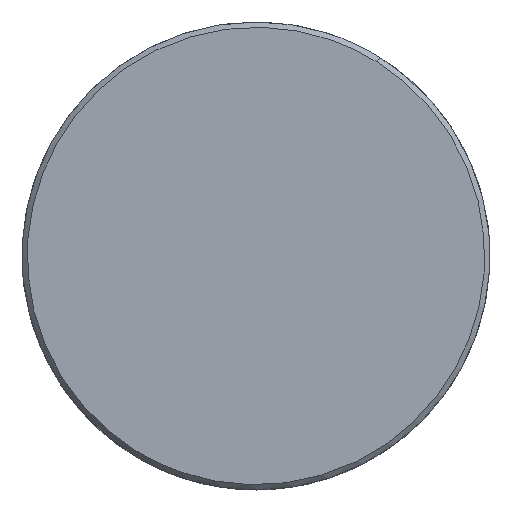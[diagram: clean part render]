
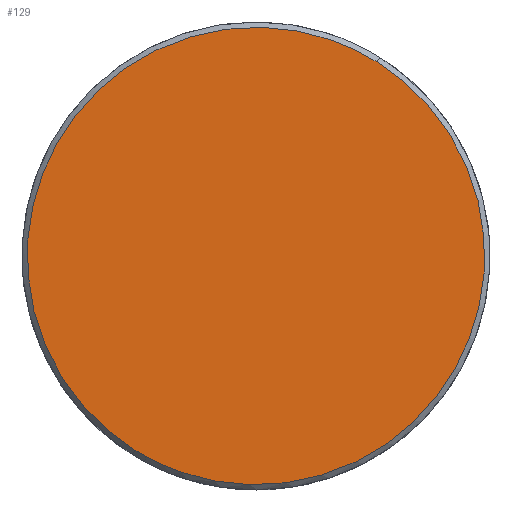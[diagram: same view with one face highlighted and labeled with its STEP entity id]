
A CAD part, front view. The second image highlights one B-rep face of the part: STEP entity #129.
In plain terms, the highlighted free-form (B-spline) face has degree [1, 1] with [2, 2] control points.
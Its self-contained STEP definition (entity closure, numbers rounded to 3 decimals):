
#129=ADVANCED_FACE('',(#253),#254,.T.);
#253=FACE_OUTER_BOUND('',#1399,.T.);
#254=B_SPLINE_SURFACE_WITH_KNOTS('',1,1,((#1400,#1401),(#1402,#1403)),.UNSPECIFIED.,.F.,.F.,.F.,(2,2),(2,2),(0.0,86.9),(0.0,86.9),.UNSPECIFIED.);
#1399=EDGE_LOOP('',(#1627,#1628,#1629));
#1400=CARTESIAN_POINT('',(-43.45,0.0,43.45));
#1401=CARTESIAN_POINT('',(43.45,0.0,43.45));
#1402=CARTESIAN_POINT('',(-43.45,0.0,-43.45));
#1403=CARTESIAN_POINT('',(43.45,0.0,-43.45));
#1627=ORIENTED_EDGE('',*,*,#1754,.F.);
#1628=ORIENTED_EDGE('',*,*,#1701,.F.);
#1629=ORIENTED_EDGE('',*,*,#1695,.F.);
#1695=EDGE_CURVE('',#1857,#1860,#1861,.T.);
#1701=EDGE_CURVE('',#1860,#1870,#1871,.T.);
#1754=EDGE_CURVE('',#1870,#1857,#1946,.T.);
#1857=VERTEX_POINT('',#2437);
#1860=VERTEX_POINT('',#2441);
#1861=(B_SPLINE_CURVE(2,(#2443,#2444,#2445,#2446,#2447,#2448,#2449),.UNSPECIFIED.,.F.,.F.)B_SPLINE_CURVE_WITH_KNOTS((3,2,2,3),(0.063,1.571,3.142,3.205),.UNSPECIFIED.)RATIONAL_B_SPLINE_CURVE((0.977,0.719,1.0,0.707,1.0,0.988,0.977))BOUNDED_CURVE()REPRESENTATION_ITEM('')GEOMETRIC_REPRESENTATION_ITEM()CURVE());
#1870=VERTEX_POINT('',#2498);
#1871=(B_SPLINE_CURVE(2,(#2500,#2501,#2502,#2503,#2504),.UNSPECIFIED.,.F.,.F.)B_SPLINE_CURVE_WITH_KNOTS((3,2,3),(3.205,4.712,6.283),.UNSPECIFIED.)RATIONAL_B_SPLINE_CURVE((0.977,0.719,1.0,0.707,1.0))BOUNDED_CURVE()REPRESENTATION_ITEM('')GEOMETRIC_REPRESENTATION_ITEM()CURVE());
#1946=(B_SPLINE_CURVE(2,(#2916,#2917,#2918),.UNSPECIFIED.,.F.,.F.)B_SPLINE_CURVE_WITH_KNOTS((3,3),(0.,0.063),.UNSPECIFIED.)RATIONAL_B_SPLINE_CURVE((1.0,0.988,0.977))BOUNDED_CURVE()REPRESENTATION_ITEM('')GEOMETRIC_REPRESENTATION_ITEM()CURVE());
#2437=CARTESIAN_POINT('',(-22.991,0.,-36.869));
#2441=CARTESIAN_POINT('',(22.991,0.,36.869));
#2443=CARTESIAN_POINT('',(-22.991,0.,-36.869));
#2444=CARTESIAN_POINT('',(-57.795,0.,-15.165));
#2445=CARTESIAN_POINT('',(-38.131,0.,20.831));
#2446=CARTESIAN_POINT('',(-17.3,0.,58.962));
#2447=CARTESIAN_POINT('',(20.831,0.,38.131));
#2448=CARTESIAN_POINT('',(21.929,0.,37.531));
#2449=CARTESIAN_POINT('',(22.991,0.,36.869));
#2498=CARTESIAN_POINT('',(-20.831,0.,-38.131));
#2500=CARTESIAN_POINT('',(22.991,0.,36.869));
#2501=CARTESIAN_POINT('',(57.795,0.,15.165));
#2502=CARTESIAN_POINT('',(38.131,0.,-20.831));
#2503=CARTESIAN_POINT('',(17.3,0.,-58.962));
#2504=CARTESIAN_POINT('',(-20.831,0.,-38.131));
#2916=CARTESIAN_POINT('',(-20.831,0.,-38.131));
#2917=CARTESIAN_POINT('',(-21.929,0.,-37.531));
#2918=CARTESIAN_POINT('',(-22.991,0.,-36.869));
